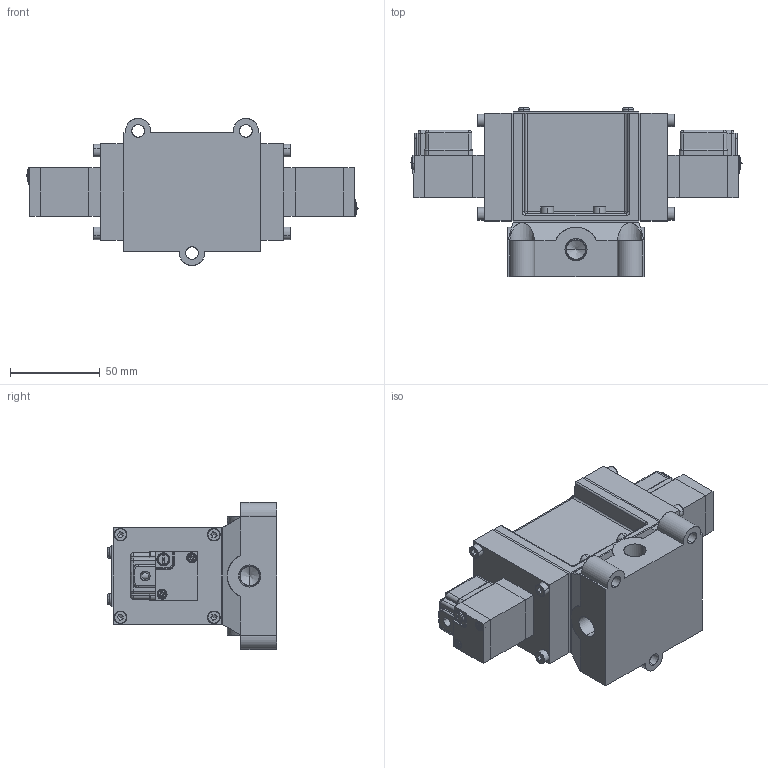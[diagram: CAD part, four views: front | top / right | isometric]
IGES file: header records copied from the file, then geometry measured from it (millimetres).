
Start section: SolidWorks IGES file using analytic representation for surfaces
Global section: file name: D:\Custom\3D繪製\PM\PM08\PMD2408#-02-#G#.IGS,1; native system: 5HSolidWorks 2014; preprocessor: SolidWorks 2014; author: Chieh_Lu; date: 150912.103809; units: millimetre
Bounding box: 184.95 x 94.35 x 82 mm (x, y, z)
Surface area: 123404.2 mm2 (no closed solid volume)
Topology: 0 solids, 0 shells, 1082 faces, 11163 edges, 11109 vertices
Faces by surface type: bspline 670, revolution 412
